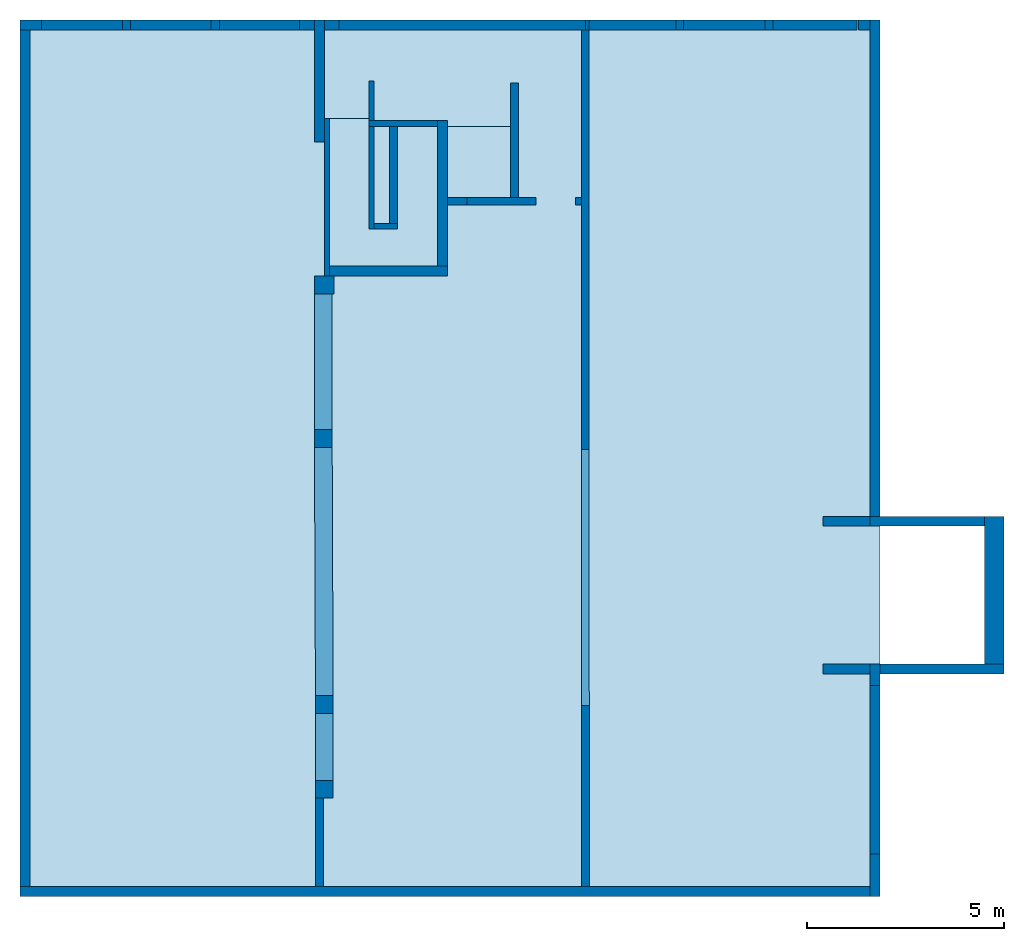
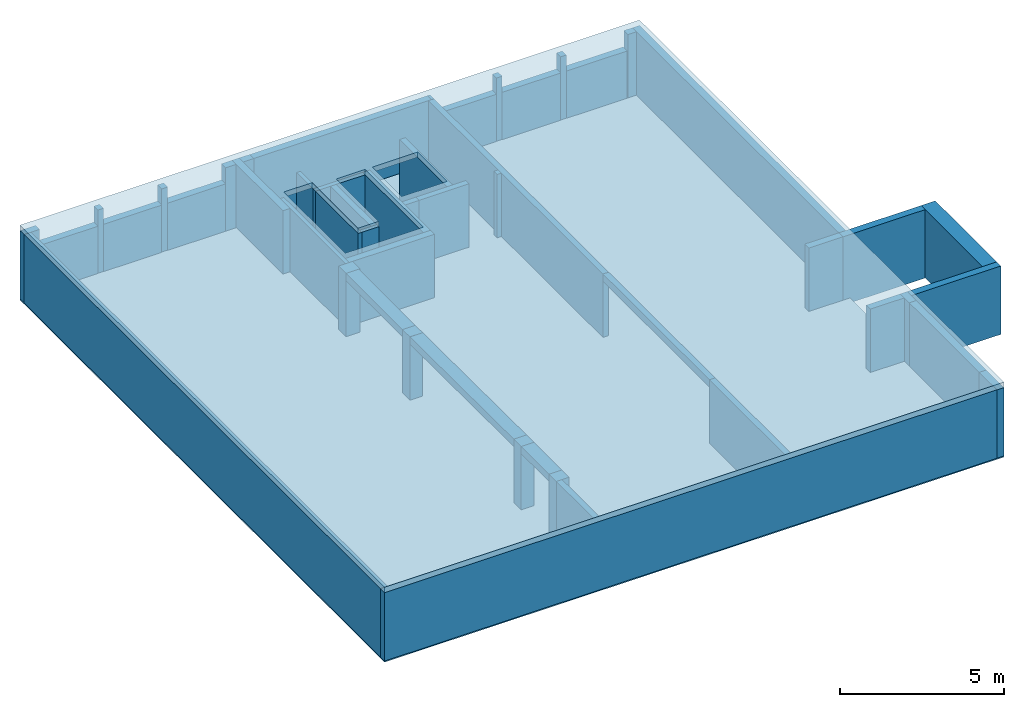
# One storey: 39 walls, 8 columns, 4 beams, 2 slabs, 2 openings.
"""IFC2X3 building model written with IfcOpenShell, lengths in millimetres."""

from ifc_helpers import new_model, entity, si_unit, converted_unit, frame, frame_2d, origin, origin_with_axes, place, context, subcontext, project, spatial, polyline, rectangle, outline, extrude, material, layer, layer_set, layer_usage, element, save


model = new_model("IFC2X3")

# Units and contexts
model_context = context("Model", 3, precision=1e-05, world=origin())
body_context = subcontext(model_context, "Body", "Model", "MODEL_VIEW")
ifc_project = project(units=[si_unit("LENGTHUNIT", "METRE", prefix="MILLI"), converted_unit("PLANEANGLEUNIT", "DEGREE", entity("IfcPlaneAngleMeasure", 0.0174532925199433), si_unit("PLANEANGLEUNIT", "RADIAN"), dimensions=[0, 0, 0, 0, 0, 0, 0]), si_unit("AREAUNIT", "SQUARE_METRE"), si_unit("VOLUMEUNIT", "CUBIC_METRE")], contexts=[model_context])

# Building, storey
building_placement = place(None, origin())
building = spatial("IfcBuilding", under=ifc_project, at=building_placement, Name="Bâtiment", CompositionType="ELEMENT")
storey_placement = place(building_placement, frame((0.0, 0.0, -820.0), z_axis=(0.0, 0.0, 1.0), x_axis=(1.0, 0.0, 0.0)))
storey = spatial("IfcBuildingStorey", under=building, at=storey_placement, Name="Sous-sol", CompositionType="ELEMENT", Elevation=-820.0)

# Columns
ifc_material_1 = material(Name="<Unnamed Material>")
column_1_placement = place(storey_placement, frame((4809.557242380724, -30245.55091156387, -200.0), z_axis=(0.0, 0.0, 1.0), x_axis=(1.0, 0.0, 0.0)))
element("IfcColumn", 1, at=column_1_placement, inside=storey, material=ifc_material_1, Name="<Unnamed Element>", context=body_context, shape_type="SweptSolid", body=[
    extrude(rectangle(XDim=450.0, YDim=450.0, at=frame_2d((225.0, 225.0), x_axis=(1.0, 0.0))), origin_with_axes(), (0.0, 0.0, 1.0), 2550.0),
])
ifc_material_2 = material(Name="<Unnamed Material>")
column_2_placement = place(storey_placement, frame((4809.557242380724, -28095.55091156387, -200.0), z_axis=(0.0, 0.0, 1.0), x_axis=(1.0, 0.0, 0.0)))
element("IfcColumn", 2, at=column_2_placement, inside=storey, material=ifc_material_2, Name="<Unnamed Element>", context=body_context, shape_type="SweptSolid", body=[
    extrude(rectangle(XDim=450.0, YDim=450.0, at=frame_2d((225.0, 225.0), x_axis=(1.0, 0.0))), origin_with_axes(), (0.0, 0.0, 1.0), 2550.0),
])
ifc_material_3 = material(Name="<Unnamed Material>")
column_3_placement = place(storey_placement, frame((4784.557242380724, -21345.55091156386, -200.0), z_axis=(0.0, 0.0, 1.0), x_axis=(1.0, 0.0, 0.0)))
element("IfcColumn", 3, at=column_3_placement, inside=storey, material=ifc_material_3, Name="<Unnamed Element>", context=body_context, shape_type="SweptSolid", body=[
    extrude(rectangle(XDim=450.0, YDim=450.0, at=frame_2d((225.0, 225.0), x_axis=(1.0, 0.0))), origin_with_axes(), (0.0, 0.0, 1.0), 2550.0),
])
ifc_material_4 = material(Name="<Unnamed Material>")
column_4_placement = place(storey_placement, frame((4784.557242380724, -17445.55091156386, -200.0), z_axis=(0.0, 0.0, 1.0), x_axis=(1.0, 0.0, 0.0)))
element("IfcColumn", 4, at=column_4_placement, inside=storey, material=ifc_material_4, Name="<Unnamed Element>", context=body_context, shape_type="SweptSolid", body=[
    extrude(rectangle(XDim=500.0, YDim=450.0, at=frame_2d((250.0, 225.0), x_axis=(1.0, 0.0))), origin_with_axes(), (0.0, 0.0, 1.0), 2550.0),
])
ifc_material_5 = material(Name="<Unnamed Material>")
column_5_placement = place(storey_placement, frame((2159.554803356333, -10745.55091156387, 0.0), z_axis=(0.0, 0.0, 1.0), x_axis=(1.0, 0.0, 0.0)))
element("IfcColumn", 5, at=column_5_placement, inside=storey, material=ifc_material_5, Name="<Unnamed Element>", context=body_context, shape_type="SweptSolid", body=[
    extrude(rectangle(XDim=212.1999999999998, YDim=250.0, at=frame_2d((106.0999999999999, 125.0), x_axis=(1.0, 0.0))), origin_with_axes(), (0.0, 0.0, 1.0), 2349.999999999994),
])
ifc_material_6 = material(Name="<Unnamed Material>")
column_6_placement = place(storey_placement, frame((-90.44275761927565, -10745.55091156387, 0.0), z_axis=(0.0, 0.0, 1.0), x_axis=(1.0, 0.0, 0.0)))
element("IfcColumn", 6, at=column_6_placement, inside=storey, material=ifc_material_6, Name="<Unnamed Element>", context=body_context, shape_type="SweptSolid", body=[
    extrude(rectangle(XDim=200.0, YDim=250.0, at=frame_2d((100.0, 125.0), x_axis=(1.0, 0.0))), origin_with_axes(), (0.0, 0.0, 1.0), 2349.999999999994),
])
ifc_material_7 = material(Name="<Unnamed Material>")
column_7_placement = place(storey_placement, frame((16219.55724238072, -10745.55091156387, 0.0), z_axis=(0.0, 0.0, 1.0), x_axis=(1.0, 0.0, 0.0)))
element("IfcColumn", 7, at=column_7_placement, inside=storey, material=ifc_material_7, Name="<Unnamed Element>", context=body_context, shape_type="SweptSolid", body=[
    extrude(rectangle(XDim=200.0, YDim=250.0, at=frame_2d((100.0, 125.0), x_axis=(1.0, 0.0))), origin_with_axes(), (0.0, 0.0, 1.0), 2349.999999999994),
])
ifc_material_8 = material(Name="<Unnamed Material>")
column_8_placement = place(storey_placement, frame((13959.55724238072, -10745.55091156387, 0.0), z_axis=(0.0, 0.0, 1.0), x_axis=(1.0, 0.0, 0.0)))
element("IfcColumn", 8, at=column_8_placement, inside=storey, material=ifc_material_8, Name="<Unnamed Element>", context=body_context, shape_type="SweptSolid", body=[
    extrude(rectangle(XDim=200.0, YDim=250.0, at=frame_2d((100.0, 125.0), x_axis=(1.0, 0.0))), origin_with_axes(), (0.0, 0.0, 1.0), 2349.999999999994),
])

# Beams
ifc_material_9 = material(Name="<Unnamed Material>")
beam_1_placement = place(storey_placement, frame((11559.55724238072, -21395.55091156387, 2080.0), z_axis=(0.0, 0.0, 1.0), x_axis=(0.0001762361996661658, -0.9999999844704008, 0.0)))
element("IfcBeam", 9, at=beam_1_placement, inside=storey, material=ifc_material_9, Name="<Unnamed Element>", context=body_context, shape_type="SweptSolid", body=[
    extrude(rectangle(XDim=270.0, YDim=200.0000000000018, at=frame_2d((135.0, -100.0000000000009), x_axis=(1.0, 0.0))), frame((0.0, 0.0, 0.0), z_axis=(1.0, 0.0, 0.0), x_axis=(0.0, 0.0, 1.0)), (0.0, 0.0, 1.0), 6500.000100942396),
])
ifc_material_10 = material(Name="<Unnamed Material>")
beam_2_placement = place(storey_placement, frame((5234.557242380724, -20895.55091156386, 2080.0), z_axis=(0.0, 0.0, 1.0), x_axis=(0.0, 1.0, 0.0)))
element("IfcBeam", 10, at=beam_2_placement, inside=storey, material=ifc_material_10, Name="<Unnamed Element>", context=body_context, shape_type="SweptSolid", body=[
    extrude(rectangle(XDim=270.0, YDim=450.0, at=frame_2d((135.0, -225.0), x_axis=(1.0, 0.0))), frame((0.0, 0.0, 0.0), z_axis=(1.0, 0.0, 0.0), x_axis=(0.0, 0.0, 1.0)), (0.0, 0.0, 1.0), 3450.0),
])
ifc_material_11 = material(Name="<Unnamed Material>")
beam_3_placement = place(storey_placement, frame((4784.56078542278, -21347.33661178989, 2080.0), z_axis=(0.0, 0.0, 1.0), x_axis=(0.003968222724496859, -0.999992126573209, 0.0)))
element("IfcBeam", 11, at=beam_3_placement, inside=storey, material=ifc_material_11, Name="<Unnamed Element>", context=body_context, shape_type="SweptSolid", body=[
    extrude(rectangle(XDim=270.0, YDim=450.0, at=frame_2d((135.0, -225.0), x_axis=(1.0, 0.0))), frame((0.0, 0.0, 0.0), z_axis=(1.0, 0.0, 0.0), x_axis=(0.0, 0.0, 1.0)), (0.0, 0.0, 1.0), 6300.049602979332),
])
ifc_material_12 = material(Name="<Unnamed Material>")
beam_4_placement = place(storey_placement, frame((4809.557242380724, -28095.55091156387, 2080.0), z_axis=(0.0, 0.0, 1.0), x_axis=(0.0, -0.9999999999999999, 0.0)))
element("IfcBeam", 12, at=beam_4_placement, inside=storey, material=ifc_material_12, Name="<Unnamed Element>", context=body_context, shape_type="SweptSolid", body=[
    extrude(rectangle(XDim=270.0, YDim=450.0, at=frame_2d((135.0, -225.0), x_axis=(1.0, 0.0))), frame((0.0, 0.0, 0.0), z_axis=(1.0, 0.0, 0.0), x_axis=(0.0, 0.0, 1.0)), (0.0, 0.0, 1.0), 1700.0),
])

# Slab, openings
ifc_material_13 = material(Name="<Unnamed Material>")
ifc_layer_1 = layer(ifc_material_13, 200.0)
ifc_layer_set_1 = layer_set([ifc_layer_1])
ifc_layer_usage_1 = layer_usage(ifc_layer_set_1, "AXIS3", "POSITIVE", 0.0)
slab_1_placement = place(storey_placement, frame((-2690.442757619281, -32745.55091156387, 2350.0), z_axis=(0.0, 0.0, 1.0), x_axis=(1.0, 0.0, 0.0)))
slab_1 = element("IfcSlab", 13, at=slab_1_placement, inside=storey, material=ifc_layer_usage_1, Name="<Unnamed Element>", PredefinedType="FLOOR", context=body_context, shape_type="SweptSolid", body=[
    extrude(rectangle(XDim=21830.00000000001, YDim=22250.0, at=frame_2d((10915.0, 11125.0), x_axis=(1.0, 0.0))), origin_with_axes(), (0.0, 0.0, 1.0), 200.0),
])
opening_1_placement = place(slab_1_placement, frame((7855.000000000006, 16000.0, 0.0), z_axis=(0.0, 0.0, 1.0), x_axis=(1.0, 0.0, 0.0)))
element("IfcOpeningElement", 14, at=opening_1_placement, cuts=slab_1, Name="Trémie dans dalle", ObjectType="Opening", context=body_context, shape_type="SweptSolid", body=[
    extrude(outline(polyline([(0.0, 3750.0), (0.0, 0.0), (2750.0, 0.0), (2750.0, 3550.0), (1730.0, 3550.0), (1730.0, 950.0), (1000.0, 950.0), (1000.0, 3750.0), (0.0, 3750.0)])), origin_with_axes(), (0.0, 0.0, 1.0), 200.0),
])
opening_2_placement = place(slab_1_placement, frame((10855.00000000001, 19550.0, 0.0), z_axis=(0.0, 0.0, 1.0), x_axis=(1.0, 0.0, 0.0)))
element("IfcOpeningElement", 15, at=opening_2_placement, cuts=slab_1, Name="Trémie dans dalle", ObjectType="Opening", context=body_context, shape_type="SweptSolid", body=[
    extrude(rectangle(XDim=1800.0, YDim=1600.0, at=frame_2d((800.0, -900.0), x_axis=(0.0, -1.0))), origin_with_axes(), (0.0, 0.0, 1.0), 200.0),
])

# Slab
ifc_material_14 = material(Name="<Unnamed Material>")
ifc_layer_2 = layer(ifc_material_14, 230.0)
ifc_layer_set_2 = layer_set([ifc_layer_2])
ifc_layer_usage_2 = layer_usage(ifc_layer_set_2, "AXIS3", "POSITIVE", 0.0)
slab_2_placement = place(storey_placement, frame((-2690.442757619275, -10495.55091156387, -240.0), z_axis=(0.0, 0.0, 1.0), x_axis=(1.0, 0.0, 0.0)))
element("IfcSlab", 16, at=slab_2_placement, inside=storey, material=ifc_layer_usage_2, Name="<Unnamed Element>", PredefinedType="FLOOR", context=body_context, shape_type="SweptSolid", body=[
    extrude(rectangle(XDim=22250.0, YDim=21830.0, at=frame_2d((10915.0, -11125.0), x_axis=(0.0, -1.0))), origin_with_axes(), (0.0, 0.0, 1.0), 230.0),
])

# Walls
ifc_material_15 = material(Name="<Unnamed Material>")
ifc_layer_3 = layer(ifc_material_15, 250.0)
ifc_layer_set_3 = layer_set([ifc_layer_3])
ifc_layer_usage_3 = layer_usage(ifc_layer_set_3, "AXIS2", "POSITIVE", 0.0)
wall_1_placement = place(storey_placement, frame((19139.55724238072, -27095.55091156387, -200.0), z_axis=(0.0, 0.0, 1.0), x_axis=(1.0, 0.0, 0.0)))
element("IfcWallStandardCase", 17, at=wall_1_placement, inside=storey, material=ifc_layer_usage_3, Name="<Unnamed Element>", context=body_context, shape_type="SweptSolid", body=[
    extrude(rectangle(XDim=3150.0, YDim=250.0, at=frame_2d((1575.0, 125.0), x_axis=(1.0, 0.0))), origin_with_axes(), (0.0, 0.0, 1.0), 2550.0),
])
ifc_material_16 = material(Name="<Unnamed Material>")
ifc_layer_4 = layer(ifc_material_16, 500.0)
ifc_layer_set_4 = layer_set([ifc_layer_4])
ifc_layer_usage_4 = layer_usage(ifc_layer_set_4, "AXIS2", "POSITIVE", 0.0)
wall_2_placement = place(storey_placement, frame((22289.55724238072, -26845.55091156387, -200.0), z_axis=(0.0, 0.0, 1.0), x_axis=(0.0, 1.0, 0.0)))
element("IfcWallStandardCase", 18, at=wall_2_placement, inside=storey, material=ifc_layer_usage_4, Name="<Unnamed Element>", context=body_context, shape_type="SweptSolid", body=[
    extrude(rectangle(XDim=3750.0, YDim=500.0, at=frame_2d((1875.0, 250.0), x_axis=(1.0, 0.0))), origin_with_axes(), (0.0, 0.0, 1.0), 2550.0),
])
ifc_material_17 = material(Name="<Unnamed Material>")
ifc_layer_5 = layer(ifc_material_17, 250.0)
ifc_layer_set_5 = layer_set([ifc_layer_5])
ifc_layer_usage_5 = layer_usage(ifc_layer_set_5, "AXIS2", "POSITIVE", -250.0)
wall_3_placement = place(storey_placement, frame((21789.55724238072, -23095.55091156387, -200.0), z_axis=(0.0, 0.0, 1.0), x_axis=(-0.9999999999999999, 0.0, 0.0)))
element("IfcWallStandardCase", 19, at=wall_3_placement, inside=storey, material=ifc_layer_usage_5, Name="<Unnamed Element>", context=body_context, shape_type="SweptSolid", body=[
    extrude(rectangle(XDim=2900.0, YDim=250.0, at=frame_2d((1450.0, 125.0), x_axis=(1.0, 0.0))), origin_with_axes(), (0.0, 0.0, 1.0), 2550.0),
])
ifc_material_18 = material(Name="<Unnamed Material>")
ifc_layer_6 = layer(ifc_material_18, 250.0)
ifc_layer_set_6 = layer_set([ifc_layer_6])
ifc_layer_usage_6 = layer_usage(ifc_layer_set_6, "AXIS2", "POSITIVE", 0.0)
wall_4_placement = place(storey_placement, frame((19139.55724238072, -31665.55091156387, -200.0), z_axis=(0.0, 0.0, 1.0), x_axis=(0.0, 1.0, 0.0)))
element("IfcWallStandardCase", 20, at=wall_4_placement, inside=storey, material=ifc_layer_usage_6, Name="<Unnamed Element>", context=body_context, shape_type="SweptSolid", body=[
    extrude(rectangle(XDim=4270.0, YDim=250.0, at=frame_2d((2135.0, 125.0), x_axis=(1.0, 0.0))), origin_with_axes(), (0.0, 0.0, 1.0), 2550.0),
])
ifc_material_19 = material(Name="<Unnamed Material>")
ifc_layer_7 = layer(ifc_material_19, 250.0)
ifc_layer_set_7 = layer_set([ifc_layer_7])
ifc_layer_usage_7 = layer_usage(ifc_layer_set_7, "AXIS2", "POSITIVE", 0.0)
wall_5_placement = place(storey_placement, frame((19139.55724238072, -27395.55091156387, -200.0), z_axis=(0.0, 0.0, 1.0), x_axis=(0.0, 1.0, 0.0)))
element("IfcWallStandardCase", 21, at=wall_5_placement, inside=storey, material=ifc_layer_usage_7, Name="<Unnamed Element>", context=body_context, shape_type="SweptSolid", body=[
    extrude(rectangle(XDim=550.0, YDim=250.0, at=frame_2d((275.0, 125.0), x_axis=(1.0, 0.0))), origin_with_axes(), (0.0, 0.0, 1.0), 2550.0),
])
ifc_material_20 = material(Name="<Unnamed Material>")
ifc_layer_8 = layer(ifc_material_20, 250.0)
ifc_layer_set_8 = layer_set([ifc_layer_8])
ifc_layer_usage_8 = layer_usage(ifc_layer_set_8, "AXIS2", "POSITIVE", -250.0)
wall_6_placement = place(storey_placement, frame((19139.55724238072, -23095.55091156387, -200.0), z_axis=(0.0, 0.0, 1.0), x_axis=(0.0, 1.0, 0.0)))
element("IfcWallStandardCase", 22, at=wall_6_placement, inside=storey, material=ifc_layer_usage_8, Name="<Unnamed Element>", context=body_context, shape_type="SweptSolid", body=[
    extrude(rectangle(XDim=12600.0, YDim=250.0, at=frame_2d((6300.0, 125.0), x_axis=(1.0, 0.0))), origin_with_axes(), (0.0, 0.0, 1.0), 2550.0),
])
ifc_material_21 = material(Name="<Unnamed Material>")
ifc_layer_9 = layer(ifc_material_21, 250.0)
ifc_layer_set_9 = layer_set([ifc_layer_9])
ifc_layer_usage_9 = layer_usage(ifc_layer_set_9, "AXIS2", "POSITIVE", -250.0)
wall_7_placement = place(storey_placement, frame((18889.55724238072, -23095.55091156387, -200.0), z_axis=(0.0, 0.0, 1.0), x_axis=(-1.0, 0.0, 0.0)))
element("IfcWallStandardCase", 23, at=wall_7_placement, inside=storey, material=ifc_layer_usage_9, Name="<Unnamed Element>", context=body_context, shape_type="SweptSolid", body=[
    extrude(rectangle(XDim=1200.0, YDim=250.0, at=frame_2d((600.0, 125.0), x_axis=(1.0, 0.0))), origin_with_axes(), (0.0, 0.0, 1.0), 2550.0),
])
ifc_material_22 = material(Name="<Unnamed Material>")
ifc_layer_10 = layer(ifc_material_22, 250.0)
ifc_layer_set_10 = layer_set([ifc_layer_10])
ifc_layer_usage_10 = layer_usage(ifc_layer_set_10, "AXIS2", "POSITIVE", 0.0)
wall_8_placement = place(storey_placement, frame((18889.55724238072, -26845.55091156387, -200.0), z_axis=(0.0, 0.0, 1.0), x_axis=(-1.0, 0.0, 0.0)))
element("IfcWallStandardCase", 24, at=wall_8_placement, inside=storey, material=ifc_layer_usage_10, Name="<Unnamed Element>", context=body_context, shape_type="SweptSolid", body=[
    extrude(rectangle(XDim=1200.0, YDim=250.0, at=frame_2d((600.0, 125.0), x_axis=(1.0, 0.0))), origin_with_axes(), (0.0, 0.0, 1.0), 2550.0),
])
ifc_material_23 = material(Name="<Unnamed Material>")
ifc_layer_11 = layer(ifc_material_23, 250.0)
ifc_layer_set_11 = layer_set([ifc_layer_11])
ifc_layer_usage_11 = layer_usage(ifc_layer_set_11, "AXIS2", "POSITIVE", 0.0)
wall_9_placement = place(storey_placement, frame((18889.55724238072, -10495.55091156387, -200.0), z_axis=(0.0, 0.0, 1.0), x_axis=(-1.0, 0.0, 0.0)))
element("IfcWallStandardCase", 25, at=wall_9_placement, inside=storey, material=ifc_layer_usage_11, Name="<Unnamed Element>", context=body_context, shape_type="SweptSolid", body=[
    extrude(rectangle(XDim=300.0, YDim=250.0, at=frame_2d((150.0, 125.0), x_axis=(1.0, 0.0))), origin_with_axes(), (0.0, 0.0, 1.0), 2550.0),
])
ifc_material_24 = material(Name="<Unnamed Material>")
ifc_layer_12 = layer(ifc_material_24, 250.0)
ifc_layer_set_12 = layer_set([ifc_layer_12])
ifc_layer_usage_12 = layer_usage(ifc_layer_set_12, "AXIS2", "POSITIVE", -125.0)
wall_10_placement = place(storey_placement, frame((5034.557242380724, -13595.55091156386, -200.0), z_axis=(0.0, 0.0, 1.0), x_axis=(0.0, 1.0, 0.0)))
element("IfcWallStandardCase", 26, at=wall_10_placement, inside=storey, material=ifc_layer_usage_12, Name="<Unnamed Element>", context=body_context, shape_type="SweptSolid", body=[
    extrude(rectangle(XDim=3099.999999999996, YDim=250.0, at=frame_2d((1549.999999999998, 125.0), x_axis=(1.0, 0.0))), origin_with_axes(), (0.0, 0.0, 1.0), 2550.0),
])
ifc_material_25 = material(Name="<Unnamed Material>")
ifc_layer_13 = layer(ifc_material_25, 250.0)
ifc_layer_set_13 = layer_set([ifc_layer_13])
ifc_layer_usage_13 = layer_usage(ifc_layer_set_13, "AXIS2", "POSITIVE", -250.0)
wall_11_placement = place(storey_placement, frame((5034.557242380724, -10745.55091156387, -200.0), z_axis=(0.0, 0.0, 1.0), x_axis=(1.0, 0.0, 0.0)))
element("IfcWallStandardCase", 27, at=wall_11_placement, inside=storey, material=ifc_layer_usage_13, Name="<Unnamed Element>", context=body_context, shape_type="SweptSolid", body=[
    extrude(rectangle(XDim=375.0, YDim=250.0, at=frame_2d((187.5, 125.0), x_axis=(1.0, 0.0))), origin_with_axes(), (0.0, 0.0, 1.0), 2550.0),
])
ifc_material_26 = material(Name="<Unnamed Material>")
ifc_layer_14 = layer(ifc_material_26, 250.0)
ifc_layer_set_14 = layer_set([ifc_layer_14])
ifc_layer_usage_14 = layer_usage(ifc_layer_set_14, "AXIS2", "POSITIVE", 0.0)
wall_12_placement = place(storey_placement, frame((4784.557242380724, -10495.55091156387, -200.0), z_axis=(0.0, 0.0, 1.0), x_axis=(-1.0, 0.0, 0.0)))
element("IfcWallStandardCase", 28, at=wall_12_placement, inside=storey, material=ifc_layer_usage_14, Name="<Unnamed Element>", context=body_context, shape_type="SweptSolid", body=[
    extrude(rectangle(XDim=375.0, YDim=250.0, at=frame_2d((187.5, 125.0), x_axis=(1.0, 0.0))), origin_with_axes(), (0.0, 0.0, 1.0), 2550.0),
])
ifc_material_27 = material(Name="<Unnamed Material>")
ifc_layer_15 = layer(ifc_material_27, 250.0)
ifc_layer_set_15 = layer_set([ifc_layer_15])
ifc_layer_usage_15 = layer_usage(ifc_layer_set_15, "AXIS2", "POSITIVE", 0.0)
wall_13_placement = place(storey_placement, frame((5409.557242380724, -10745.55091156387, -200.0), z_axis=(0.0, 0.0, 1.0), x_axis=(1.0, 0.0, 0.0)))
element("IfcWallStandardCase", 29, at=wall_13_placement, inside=storey, material=ifc_layer_usage_15, Name="<Unnamed Element>", context=body_context, shape_type="SweptSolid", body=[
    extrude(rectangle(XDim=6250.0, YDim=250.0, at=frame_2d((3125.0, 125.0), x_axis=(1.0, 0.0))), origin_with_axes(), (0.0, 0.0, 1.0), 2550.0),
])
ifc_material_28 = material(Name="<Unnamed Material>")
ifc_layer_16 = layer(ifc_material_28, 100.0)
ifc_layer_set_16 = layer_set([ifc_layer_16])
ifc_layer_usage_16 = layer_usage(ifc_layer_set_16, "AXIS2", "POSITIVE", 0.0)
wall_14_placement = place(storey_placement, frame((11659.55724238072, -10745.55091156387, -200.0), z_axis=(0.0, 0.0, 1.0), x_axis=(0.0, 1.0, 0.0)))
element("IfcWallStandardCase", 30, at=wall_14_placement, inside=storey, material=ifc_layer_usage_16, Name="<Unnamed Element>", context=body_context, shape_type="SweptSolid", body=[
    extrude(rectangle(XDim=250.0, YDim=100.0, at=frame_2d((125.0, 50.0), x_axis=(1.0, 0.0))), frame((0.0, -100.0, 0.0), z_axis=(0.0, 0.0, 1.0), x_axis=(1.0, 0.0, 0.0)), (0.0, 0.0, 1.0), 2550.0),
])
ifc_material_29 = material(Name="<Unnamed Material>")
ifc_layer_17 = layer(ifc_material_29, 130.0)
ifc_layer_set_17 = layer_set([ifc_layer_17])
ifc_layer_usage_17 = layer_usage(ifc_layer_set_17, "AXIS2", "POSITIVE", -130.0)
wall_15_placement = place(storey_placement, frame((5164.557242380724, -16995.55091156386, -200.0), z_axis=(0.0, 0.0, 1.0), x_axis=(0.0, 1.0, 0.0)))
element("IfcWallStandardCase", 31, at=wall_15_placement, inside=storey, material=ifc_layer_usage_17, Name="<Unnamed Element>", context=body_context, shape_type="SweptSolid", body=[
    extrude(rectangle(XDim=4000.0, YDim=130.0, at=frame_2d((2000.0, 65.0), x_axis=(1.0, 0.0))), origin_with_axes(), (0.0, 0.0, 1.0), 2550.0),
])
ifc_material_30 = material(Name="<Unnamed Material>")
ifc_layer_18 = layer(ifc_material_30, 250.0)
ifc_layer_set_18 = layer_set([ifc_layer_18])
ifc_layer_usage_18 = layer_usage(ifc_layer_set_18, "AXIS2", "POSITIVE", 0.0)
wall_16_placement = place(storey_placement, frame((5164.557242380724, -16995.55091156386, -200.0), z_axis=(0.0, 0.0, 1.0), x_axis=(1.0, 0.0, 0.0)))
element("IfcWallStandardCase", 32, at=wall_16_placement, inside=storey, material=ifc_layer_usage_18, Name="<Unnamed Element>", context=body_context, shape_type="SweptSolid", body=[
    extrude(rectangle(XDim=3000.0, YDim=250.0, at=frame_2d((1500.0, 125.0), x_axis=(1.0, 0.0))), origin_with_axes(), (0.0, 0.0, 1.0), 2550.0),
])
ifc_material_31 = material(Name="<Unnamed Material>")
ifc_layer_19 = layer(ifc_material_31, 250.0)
ifc_layer_set_19 = layer_set([ifc_layer_19])
ifc_layer_usage_19 = layer_usage(ifc_layer_set_19, "AXIS2", "POSITIVE", -250.0)
wall_17_placement = place(storey_placement, frame((8164.557242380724, -16745.55091156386, -200.0), z_axis=(0.0, 0.0, 1.0), x_axis=(0.0, 1.0, 0.0)))
element("IfcWallStandardCase", 33, at=wall_17_placement, inside=storey, material=ifc_layer_usage_19, Name="<Unnamed Element>", context=body_context, shape_type="SweptSolid", body=[
    extrude(rectangle(XDim=3700.0, YDim=250.0, at=frame_2d((1850.0, 125.0), x_axis=(1.0, 0.0))), origin_with_axes(), (0.0, 0.0, 1.0), 2550.0),
])
ifc_material_32 = material(Name="<Unnamed Material>")
ifc_layer_20 = layer(ifc_material_32, 150.0)
ifc_layer_set_20 = layer_set([ifc_layer_20])
ifc_layer_usage_20 = layer_usage(ifc_layer_set_20, "AXIS2", "POSITIVE", 0.0)
wall_18_placement = place(storey_placement, frame((7914.557242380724, -13045.55091156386, -200.0), z_axis=(0.0, 0.0, 1.0), x_axis=(-1.0, 0.0, 0.0)))
element("IfcWallStandardCase", 34, at=wall_18_placement, inside=storey, material=ifc_layer_usage_20, Name="<Unnamed Element>", context=body_context, shape_type="SweptSolid", body=[
    extrude(rectangle(XDim=1750.0, YDim=150.0, at=frame_2d((875.0, 75.0), x_axis=(1.0, 0.0))), origin_with_axes(), (0.0, 0.0, 1.0), 2550.0),
])
ifc_material_33 = material(Name="<Unnamed Material>")
ifc_layer_21 = layer(ifc_material_33, 130.0)
ifc_layer_set_21 = layer_set([ifc_layer_21])
ifc_layer_usage_21 = layer_usage(ifc_layer_set_21, "AXIS2", "POSITIVE", -130.0)
wall_19_placement = place(storey_placement, frame((6294.557242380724, -13045.55091156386, -200.0), z_axis=(0.0, 0.0, 1.0), x_axis=(0.0, 1.0, 0.0)))
element("IfcWallStandardCase", 35, at=wall_19_placement, inside=storey, material=ifc_layer_usage_21, Name="<Unnamed Element>", context=body_context, shape_type="SweptSolid", body=[
    extrude(rectangle(XDim=1000.0, YDim=130.0, at=frame_2d((500.0, 65.0), x_axis=(1.0, 0.0))), origin_with_axes(), (0.0, 0.0, 1.0), 2550.0),
])
ifc_material_34 = material(Name="<Unnamed Material>")
ifc_layer_22 = layer(ifc_material_34, 130.0)
ifc_layer_set_22 = layer_set([ifc_layer_22])
ifc_layer_usage_22 = layer_usage(ifc_layer_set_22, "AXIS2", "POSITIVE", 0.0)
wall_20_placement = place(storey_placement, frame((6164.557242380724, -13195.55091156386, -200.0), z_axis=(0.0, 0.0, 1.0), x_axis=(0.0, -1.0, 0.0)))
element("IfcWallStandardCase", 36, at=wall_20_placement, inside=storey, material=ifc_layer_usage_22, Name="<Unnamed Element>", context=body_context, shape_type="SweptSolid", body=[
    extrude(rectangle(XDim=2600.0, YDim=130.0, at=frame_2d((1300.0, 65.0), x_axis=(1.0, 0.0))), origin_with_axes(), (0.0, 0.0, 1.0), 2550.0),
])
ifc_material_35 = material(Name="<Unnamed Material>")
ifc_layer_23 = layer(ifc_material_35, 130.0)
ifc_layer_set_23 = layer_set([ifc_layer_23])
ifc_layer_usage_23 = layer_usage(ifc_layer_set_23, "AXIS2", "POSITIVE", 0.0)
wall_21_placement = place(storey_placement, frame((6294.557242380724, -15795.55091156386, -200.0), z_axis=(0.0, 0.0, 1.0), x_axis=(1.0, 0.0, 0.0)))
element("IfcWallStandardCase", 37, at=wall_21_placement, inside=storey, material=ifc_layer_usage_23, Name="<Unnamed Element>", context=body_context, shape_type="SweptSolid", body=[
    extrude(rectangle(XDim=600.0, YDim=130.0, at=frame_2d((300.0, 65.0), x_axis=(1.0, 0.0))), origin_with_axes(), (0.0, 0.0, 1.0), 2550.0),
])
ifc_material_36 = material(Name="<Unnamed Material>")
ifc_layer_24 = layer(ifc_material_36, 200.0)
ifc_layer_set_24 = layer_set([ifc_layer_24])
ifc_layer_usage_24 = layer_usage(ifc_layer_set_24, "AXIS2", "POSITIVE", -200.0)
wall_22_placement = place(storey_placement, frame((6894.557242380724, -15665.55091156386, -200.0), z_axis=(0.0, 0.0, 1.0), x_axis=(0.0, 1.0, 0.0)))
element("IfcWallStandardCase", 38, at=wall_22_placement, inside=storey, material=ifc_layer_usage_24, Name="<Unnamed Element>", context=body_context, shape_type="SweptSolid", body=[
    extrude(rectangle(XDim=2470.0, YDim=200.0, at=frame_2d((1235.0, 100.0), x_axis=(1.0, 0.0))), origin_with_axes(), (0.0, 0.0, 1.0), 2550.0),
])
ifc_material_37 = material(Name="<Unnamed Material>")
ifc_layer_25 = layer(ifc_material_37, 200.0)
ifc_layer_set_25 = layer_set([ifc_layer_25])
ifc_layer_usage_25 = layer_usage(ifc_layer_set_25, "AXIS2", "POSITIVE", 0.0)
wall_23_placement = place(storey_placement, frame((8654.557242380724, -14995.55091156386, -200.0), z_axis=(0.0, 0.0, 1.0), x_axis=(-1.0, 0.0, 0.0)))
element("IfcWallStandardCase", 39, at=wall_23_placement, inside=storey, material=ifc_layer_usage_25, Name="<Unnamed Element>", context=body_context, shape_type="SweptSolid", body=[
    extrude(rectangle(XDim=490.0, YDim=200.0, at=frame_2d((245.0, 100.0), x_axis=(1.0, 0.0))), origin_with_axes(), (0.0, 0.0, 1.0), 2550.0),
])
ifc_material_38 = material(Name="<Unnamed Material>")
ifc_layer_26 = layer(ifc_material_38, 200.0)
ifc_layer_set_26 = layer_set([ifc_layer_26])
ifc_layer_usage_26 = layer_usage(ifc_layer_set_26, "AXIS2", "POSITIVE", -200.0)
wall_24_placement = place(storey_placement, frame((8654.557242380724, -15195.55091156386, -200.0), z_axis=(0.0, 0.0, 1.0), x_axis=(1.0, 0.0, 0.0)))
element("IfcWallStandardCase", 40, at=wall_24_placement, inside=storey, material=ifc_layer_usage_26, Name="<Unnamed Element>", context=body_context, shape_type="SweptSolid", body=[
    extrude(rectangle(XDim=1760.0, YDim=200.0, at=frame_2d((880.0, 100.0), x_axis=(1.0, 0.0))), origin_with_axes(), (0.0, 0.0, 1.0), 2550.0),
])
ifc_material_39 = material(Name="<Unnamed Material>")
ifc_layer_27 = layer(ifc_material_39, 200.0)
ifc_layer_set_27 = layer_set([ifc_layer_27])
ifc_layer_usage_27 = layer_usage(ifc_layer_set_27, "AXIS2", "POSITIVE", -200.0)
wall_25_placement = place(storey_placement, frame((9964.557242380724, -14995.55091156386, -200.0), z_axis=(0.0, 0.0, 1.0), x_axis=(0.0, 0.9999999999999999, 0.0)))
element("IfcWallStandardCase", 41, at=wall_25_placement, inside=storey, material=ifc_layer_usage_27, Name="<Unnamed Element>", context=body_context, shape_type="SweptSolid", body=[
    extrude(rectangle(XDim=2900.0, YDim=200.0, at=frame_2d((1450.0, 99.99999999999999), x_axis=(1.0, 0.0))), origin_with_axes(), (0.0, 0.0, 1.0), 2550.0),
])
ifc_material_40 = material(Name="<Unnamed Material>")
ifc_layer_28 = layer(ifc_material_40, 200.0)
ifc_layer_set_28 = layer_set([ifc_layer_28])
ifc_layer_usage_28 = layer_usage(ifc_layer_set_28, "AXIS2", "POSITIVE", -100.0)
wall_26_placement = place(storey_placement, frame((11760.70277769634, -32495.55091156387, -200.0), z_axis=(0.0, 0.0, 1.0), x_axis=(0.0, 1.0, 0.0)))
element("IfcWallStandardCase", 42, at=wall_26_placement, inside=storey, material=ifc_layer_usage_28, Name="<Unnamed Element>", context=body_context, shape_type="SweptSolid", body=[
    extrude(rectangle(XDim=4600.0, YDim=200.0, at=frame_2d((2300.0, 100.0), x_axis=(1.0, 0.0))), origin_with_axes(), (0.0, 0.0, 1.0), 2550.0),
])
ifc_material_41 = material(Name="<Unnamed Material>")
ifc_layer_29 = layer(ifc_material_41, 200.0)
ifc_layer_set_29 = layer_set([ifc_layer_29])
ifc_layer_usage_29 = layer_usage(ifc_layer_set_29, "AXIS2", "POSITIVE", -100.0)
wall_27_placement = place(storey_placement, frame((4809.557242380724, -30245.55091156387, -200.0), z_axis=(0.0, 0.0, 1.0), x_axis=(0.0, -1.0, 0.0)))
element("IfcWallStandardCase", 43, at=wall_27_placement, inside=storey, material=ifc_layer_usage_29, Name="<Unnamed Element>", context=body_context, shape_type="SweptSolid", body=[
    extrude(rectangle(XDim=2250.0, YDim=200.0, at=frame_2d((1125.0, 100.0), x_axis=(1.0, 0.0))), origin_with_axes(), (0.0, 0.0, 1.0), 2550.0),
])
ifc_material_42 = material(Name="<Unnamed Material>")
ifc_layer_30 = layer(ifc_material_42, 200.0)
ifc_layer_set_30 = layer_set([ifc_layer_30])
ifc_layer_usage_30 = layer_usage(ifc_layer_set_30, "AXIS2", "POSITIVE", -100.0)
wall_28_placement = place(storey_placement, frame((11559.55724238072, -10745.55091156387, -200.0), z_axis=(0.0, 0.0, 1.0), x_axis=(0.0, -1.0, 0.0)))
element("IfcWallStandardCase", 44, at=wall_28_placement, inside=storey, material=ifc_layer_usage_30, Name="<Unnamed Element>", context=body_context, shape_type="SweptSolid", body=[
    extrude(rectangle(XDim=10650.0, YDim=200.0, at=frame_2d((5325.0, 100.0), x_axis=(1.0, 0.0))), origin_with_axes(), (0.0, 0.0, 1.0), 2550.0),
])
ifc_material_43 = material(Name="<Unnamed Material>")
ifc_layer_31 = layer(ifc_material_43, 200.0)
ifc_layer_set_31 = layer_set([ifc_layer_31])
ifc_layer_usage_31 = layer_usage(ifc_layer_set_31, "AXIS2", "POSITIVE", -100.0)
wall_29_placement = place(storey_placement, frame((11559.55724238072, -14995.55091156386, -200.0), z_axis=(0.0, 0.0, 1.0), x_axis=(-1.0, 0.0, 0.0)))
element("IfcWallStandardCase", 45, at=wall_29_placement, inside=storey, material=ifc_layer_usage_31, Name="<Unnamed Element>", context=body_context, shape_type="SweptSolid", body=[
    extrude(rectangle(XDim=150.0, YDim=200.0, at=frame_2d((75.0, 100.0), x_axis=(1.0, 0.0))), origin_with_axes(), (0.0, 0.0, 1.0), 2550.0),
])
ifc_material_44 = material(Name="<Unnamed Material>")
ifc_layer_32 = layer(ifc_material_44, 250.0)
ifc_layer_set_32 = layer_set([ifc_layer_32])
ifc_layer_usage_32 = layer_usage(ifc_layer_set_32, "AXIS2", "POSITIVE", 0.0)
wall_30_placement = place(storey_placement, frame((11759.55724238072, -10745.55091156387, -200.0), z_axis=(0.0, 0.0, 1.0), x_axis=(1.0, 0.0, 0.0)))
element("IfcWallStandardCase", 46, at=wall_30_placement, inside=storey, material=ifc_layer_usage_32, Name="<Unnamed Element>", context=body_context, shape_type="SweptSolid", body=[
    extrude(rectangle(XDim=2200.0, YDim=250.0, at=frame_2d((1100.0, 125.0), x_axis=(1.0, 0.0))), origin_with_axes(), (0.0, 0.0, 1.0), 1950.0),
])
ifc_material_45 = material(Name="<Unnamed Material>")
ifc_layer_33 = layer(ifc_material_45, 250.0)
ifc_layer_set_33 = layer_set([ifc_layer_33])
ifc_layer_usage_33 = layer_usage(ifc_layer_set_33, "AXIS2", "POSITIVE", 0.0)
wall_31_placement = place(storey_placement, frame((2371.754803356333, -10745.55091156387, -200.0), z_axis=(0.0, 0.0, 1.0), x_axis=(0.9999999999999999, -8.926230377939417e-16, 0.0)))
element("IfcWallStandardCase", 47, at=wall_31_placement, inside=storey, material=ifc_layer_usage_33, Name="<Unnamed Element>", context=body_context, shape_type="SweptSolid", body=[
    extrude(rectangle(XDim=2037.802439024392, YDim=250.0, at=frame_2d((1018.901219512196, 125.0), x_axis=(1.0, 0.0))), origin_with_axes(), (0.0, 0.0, 1.0), 1950.0),
])
ifc_material_46 = material(Name="<Unnamed Material>")
ifc_layer_34 = layer(ifc_material_46, 250.0)
ifc_layer_set_34 = layer_set([ifc_layer_34])
ifc_layer_usage_34 = layer_usage(ifc_layer_set_34, "AXIS2", "POSITIVE", 0.0)
wall_32_placement = place(storey_placement, frame((109.5572423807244, -10745.55091156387, -200.0), z_axis=(0.0, 0.0, 1.0), x_axis=(1.0, 8.873129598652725e-16, 0.0)))
element("IfcWallStandardCase", 48, at=wall_32_placement, inside=storey, material=ifc_layer_usage_34, Name="<Unnamed Element>", context=body_context, shape_type="SweptSolid", body=[
    extrude(rectangle(XDim=2049.997560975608, YDim=250.0, at=frame_2d((1024.998780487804, 125.0), x_axis=(1.0, 0.0))), origin_with_axes(), (0.0, 0.0, 1.0), 1950.0),
])
ifc_material_47 = material(Name="<Unnamed Material>")
ifc_layer_35 = layer(ifc_material_47, 250.0)
ifc_layer_set_35 = layer_set([ifc_layer_35])
ifc_layer_usage_35 = layer_usage(ifc_layer_set_35, "AXIS2", "POSITIVE", 0.0)
wall_33_placement = place(storey_placement, frame((-2140.442757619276, -10745.55091156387, -200.0), z_axis=(0.0, 0.0, 1.0), x_axis=(1.0, 0.0, 0.0)))
element("IfcWallStandardCase", 49, at=wall_33_placement, inside=storey, material=ifc_layer_usage_35, Name="<Unnamed Element>", context=body_context, shape_type="SweptSolid", body=[
    extrude(rectangle(XDim=2050.0, YDim=250.0, at=frame_2d((1025.0, 125.0), x_axis=(1.0, 0.0))), origin_with_axes(), (0.0, 0.0, 1.0), 1950.0),
])
ifc_material_48 = material(Name="<Unnamed Material>")
ifc_layer_36 = layer(ifc_material_48, 250.0)
ifc_layer_set_36 = layer_set([ifc_layer_36])
ifc_layer_usage_36 = layer_usage(ifc_layer_set_36, "AXIS2", "POSITIVE", 0.0)
wall_34_placement = place(storey_placement, frame((14159.55724238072, -10745.55091156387, -200.0), z_axis=(0.0, 0.0, 1.0), x_axis=(1.0, 0.0, 0.0)))
element("IfcWallStandardCase", 50, at=wall_34_placement, inside=storey, material=ifc_layer_usage_36, Name="<Unnamed Element>", context=body_context, shape_type="SweptSolid", body=[
    extrude(rectangle(XDim=2060.0, YDim=250.0, at=frame_2d((1030.0, 125.0), x_axis=(1.0, 0.0))), origin_with_axes(), (0.0, 0.0, 1.0), 1950.0),
])
ifc_material_49 = material(Name="<Unnamed Material>")
ifc_layer_37 = layer(ifc_material_49, 250.0)
ifc_layer_set_37 = layer_set([ifc_layer_37])
ifc_layer_usage_37 = layer_usage(ifc_layer_set_37, "AXIS2", "POSITIVE", 0.0)
wall_35_placement = place(storey_placement, frame((16419.55724238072, -10745.55091156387, -200.0), z_axis=(0.0, 0.0, 1.0), x_axis=(1.0, 0.0, 0.0)))
element("IfcWallStandardCase", 51, at=wall_35_placement, inside=storey, material=ifc_layer_usage_37, Name="<Unnamed Element>", context=body_context, shape_type="SweptSolid", body=[
    extrude(rectangle(XDim=2140.0, YDim=250.0, at=frame_2d((1070.0, 125.0), x_axis=(1.0, 0.0))), origin_with_axes(), (0.0, 0.0, 1.0), 1950.0),
])
ifc_material_50 = material(Name="<Unnamed Material>")
ifc_layer_38 = layer(ifc_material_50, 250.0)
ifc_layer_set_38 = layer_set([ifc_layer_38])
ifc_layer_usage_38 = layer_usage(ifc_layer_set_38, "AXIS2", "POSITIVE", -250.0)
wall_36_placement = place(storey_placement, frame((-2140.442757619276, -10495.55091156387, -200.0), z_axis=(0.0, 0.0, 1.0), x_axis=(-1.0, 0.0, 0.0)))
element("IfcWallStandardCase", 52, at=wall_36_placement, inside=storey, material=ifc_layer_usage_38, Name="<Unnamed Element>", context=body_context, shape_type="SweptSolid", body=[
    extrude(rectangle(XDim=550.0, YDim=250.0, at=frame_2d((275.0, 125.0), x_axis=(1.0, 0.0))), origin_with_axes(), (0.0, 0.0, 1.0), 2550.0),
])
ifc_material_51 = material(Name="<Unnamed Material>")
ifc_layer_39 = layer(ifc_material_51, 250.0)
ifc_layer_set_39 = layer_set([ifc_layer_39])
ifc_layer_usage_39 = layer_usage(ifc_layer_set_39, "AXIS2", "POSITIVE", -250.0)
wall_37_placement = place(storey_placement, frame((18889.55724238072, -31665.55091156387, -200.0), z_axis=(0.0, 0.0, 1.0), x_axis=(-3.36849889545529e-15, -1.0, 0.0)))
element("IfcWallStandardCase", 53, at=wall_37_placement, inside=storey, material=ifc_layer_usage_39, Name="<Unnamed Element>", context=body_context, shape_type="SweptSolid", body=[
    extrude(rectangle(XDim=1080.0, YDim=250.0, at=frame_2d((540.0, 125.0), x_axis=(1.0, 0.0))), origin_with_axes(), (0.0, 0.0, 1.0), 2550.0),
])
ifc_material_52 = material(Name="<Unnamed Material>")
ifc_layer_40 = layer(ifc_material_52, 250.0)
ifc_layer_set_40 = layer_set([ifc_layer_40])
ifc_layer_usage_40 = layer_usage(ifc_layer_set_40, "AXIS2", "POSITIVE", -250.0)
wall_38_placement = place(storey_placement, frame((18889.55724238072, -32495.55091156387, -200.0), z_axis=(0.0, 0.0, 1.0), x_axis=(-1.0, 0.0, 0.0)))
element("IfcWallStandardCase", 54, at=wall_38_placement, inside=storey, material=ifc_layer_usage_40, Name="<Unnamed Element>", context=body_context, shape_type="SweptSolid", body=[
    extrude(rectangle(XDim=21580.0, YDim=250.0, at=frame_2d((10790.0, 125.0), x_axis=(1.0, 0.0))), origin_with_axes(), (0.0, 0.0, 1.0), 2550.0),
])
ifc_material_53 = material(Name="<Unnamed Material>")
ifc_layer_41 = layer(ifc_material_53, 250.0)
ifc_layer_set_41 = layer_set([ifc_layer_41])
ifc_layer_usage_41 = layer_usage(ifc_layer_set_41, "AXIS2", "POSITIVE", -250.0)
wall_39_placement = place(storey_placement, frame((-2690.442757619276, -10745.55091156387, -200.0), z_axis=(0.0, 0.0, 1.0), x_axis=(-2.508950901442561e-16, -1.0, 0.0)))
element("IfcWallStandardCase", 55, at=wall_39_placement, inside=storey, material=ifc_layer_usage_41, Name="<Unnamed Element>", context=body_context, shape_type="SweptSolid", body=[
    extrude(rectangle(XDim=21750.0, YDim=250.0, at=frame_2d((10875.0, 125.0), x_axis=(1.0, 0.0))), origin_with_axes(), (0.0, 0.0, 1.0), 2550.0),
])

save(model, "model.ifc")
